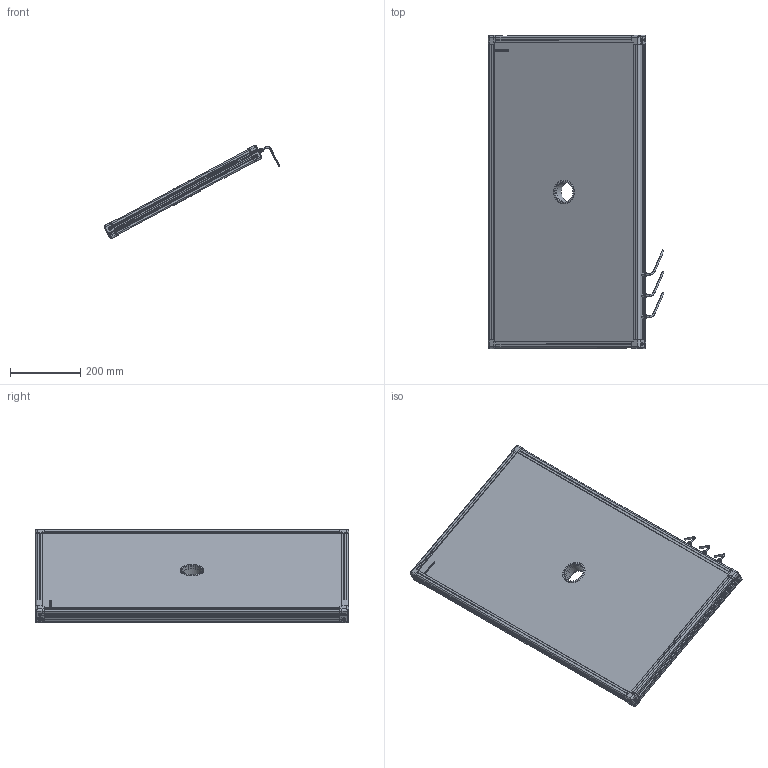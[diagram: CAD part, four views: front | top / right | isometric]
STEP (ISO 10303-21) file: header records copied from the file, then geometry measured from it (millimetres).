
FILE_DESCRIPTION (( 'STEP AP214' ), '1' );
FILE_NAME ('EFFI-BL-450-850-XXX-3M12.STEP', '2021-06-23T07:45:47', ( '' ), ( '' ), 'SwSTEP 2.0', 'SolidWorks 2021', '' );
FILE_SCHEMA (( 'AUTOMOTIVE_DESIGN' ));
Length unit declared in the file: millimetre
Products named in the file (13): profile X_PERCE; 000629; 000590; cordon_Avec cable; EFFI-BL-450-850-XXX-3M12; profile Y_PERCE; Pièce13^EFFI-BL-XXX-YYY-ZZZ (3 connecteurs) Ø58.5; 001037; petite joue; 001038; Assemblage Ø58.5; petite joue + vis
Assembly tree (21 placements, depth 3):
  EFFI-BL-450-850-XXX-3M12
    profile X_PERCE  x2
    profile Y_PERCE
    profile Y_PERCE
    Pièce13^EFFI-BL-XXX-YYY-ZZZ (3 connecteurs) Ø58.5
    petite joue + vis  x4
      petite joue
      000629
    Assemblage Ø58.5
      001037
      001038
      000590  x3
    cordon_Avec cable  x3
Bounding box: 498.62 x 889 x 264.61 mm (x, y, z)
Volume: 14998843.9 mm3; surface area: 1305564.5 mm2
Topology: 22 solids, 40 shells, 4123 faces, 10940 edges, 7177 vertices
Faces by surface type: plane 2536, cylinder 759, bspline 609, cone 156, torus 55, sphere 8
Entity records: 57210 total; most frequent: CARTESIAN_POINT 22824, ORIENTED_EDGE 7166, DIRECTION 5912, EDGE_CURVE 3587, LINE 2498, VECTOR 2498, VERTEX_POINT 2358, AXIS2_PLACEMENT_3D 1707
